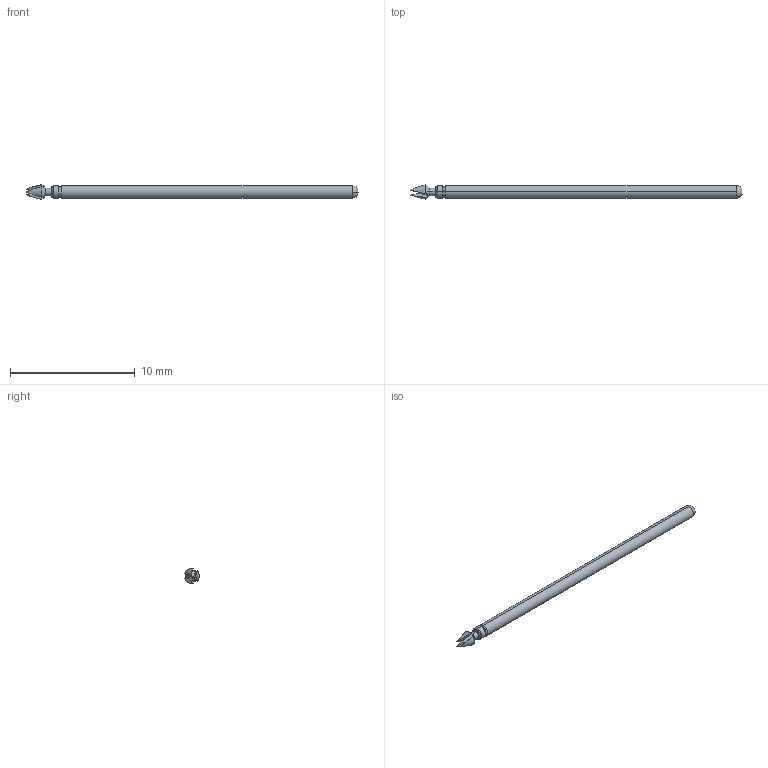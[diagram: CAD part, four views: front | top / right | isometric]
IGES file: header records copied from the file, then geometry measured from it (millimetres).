
Start section: SolidWorks IGES file using analytic representation for surfaces
Global section: file name: Z:\probe solid model mockups\Solidworks models\Parts\LFRE-1UN FULL.IGS; native system: SolidWorks 2016; preprocessor: SolidWorks 2016; author: mlee; date: 180927.164116; units: inch
Bounding box: 26.65 x 1.17 x 1.19 mm (x, y, z)
Surface area: 85.5 mm2 (no closed solid volume)
Topology: 0 solids, 0 shells, 40 faces, 249 edges, 249 vertices
Faces by surface type: revolution 22, bspline 18
